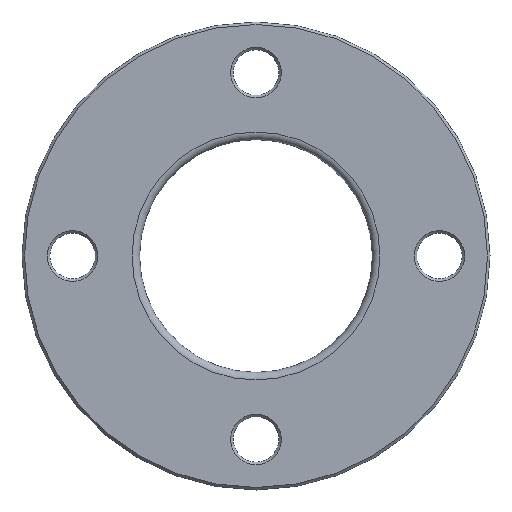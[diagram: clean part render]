
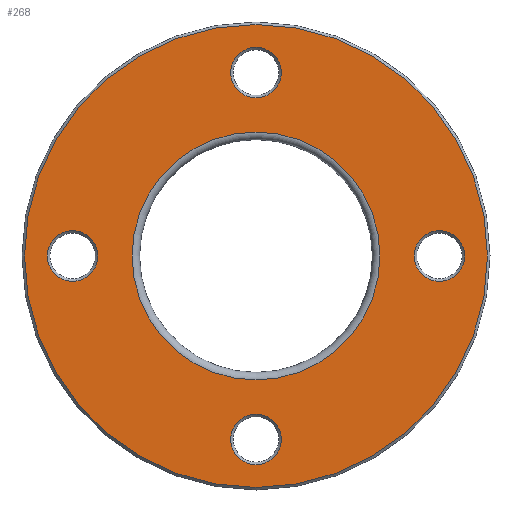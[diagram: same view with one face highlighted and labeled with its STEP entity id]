
A CAD part, front view. The second image highlights one B-rep face of the part: STEP entity #268.
In plain terms, the highlighted planar face has unit normal (0, -1, 0).
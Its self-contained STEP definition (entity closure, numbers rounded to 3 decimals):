
#23=PLANE('',#320);
#62=ORIENTED_EDGE('',*,*,#101,.T.);
#63=ORIENTED_EDGE('',*,*,#102,.T.);
#64=ORIENTED_EDGE('',*,*,#84,.T.);
#65=ORIENTED_EDGE('',*,*,#88,.T.);
#66=ORIENTED_EDGE('',*,*,#92,.T.);
#67=ORIENTED_EDGE('',*,*,#103,.T.);
#84=EDGE_CURVE('',#108,#108,#132,.T.);
#88=EDGE_CURVE('',#112,#112,#136,.T.);
#92=EDGE_CURVE('',#116,#116,#140,.T.);
#101=EDGE_CURVE('',#125,#125,#149,.F.);
#102=EDGE_CURVE('',#126,#126,#150,.T.);
#103=EDGE_CURVE('',#127,#127,#151,.T.);
#108=VERTEX_POINT('',#431);
#112=VERTEX_POINT('',#442);
#116=VERTEX_POINT('',#453);
#125=VERTEX_POINT('',#476);
#126=VERTEX_POINT('',#478);
#127=VERTEX_POINT('',#480);
#132=CIRCLE('',#293,10.);
#136=CIRCLE('',#300,10.);
#140=CIRCLE('',#307,10.);
#149=CIRCLE('',#321,91.5);
#150=CIRCLE('',#322,49.);
#151=CIRCLE('',#323,10.);
#182=EDGE_LOOP('',(#62));
#183=EDGE_LOOP('',(#63));
#184=EDGE_LOOP('',(#64));
#185=EDGE_LOOP('',(#65));
#186=EDGE_LOOP('',(#66));
#187=EDGE_LOOP('',(#67));
#230=FACE_BOUND('',#182,.T.);
#231=FACE_BOUND('',#183,.T.);
#232=FACE_BOUND('',#184,.T.);
#233=FACE_BOUND('',#185,.T.);
#234=FACE_BOUND('',#186,.T.);
#235=FACE_BOUND('',#187,.T.);
#268=ADVANCED_FACE('',(#230,#231,#232,#233,#234,#235),#23,.F.);
#293=AXIS2_PLACEMENT_3D('',#430,#343,#344);
#300=AXIS2_PLACEMENT_3D('',#441,#357,#358);
#307=AXIS2_PLACEMENT_3D('',#452,#371,#372);
#320=AXIS2_PLACEMENT_3D('',#474,#397,#398);
#321=AXIS2_PLACEMENT_3D('',#475,#399,#400);
#322=AXIS2_PLACEMENT_3D('',#477,#401,#402);
#323=AXIS2_PLACEMENT_3D('',#479,#403,#404);
#343=DIRECTION('',(0.,1.,0.));
#344=DIRECTION('',(0.,0.,1.));
#357=DIRECTION('',(0.,1.,0.));
#358=DIRECTION('',(-1.,0.,0.));
#371=DIRECTION('',(0.,1.,0.));
#372=DIRECTION('',(0.,0.,-1.));
#397=DIRECTION('',(0.,1.,0.));
#398=DIRECTION('',(0.,0.,1.));
#399=DIRECTION('',(0.,1.,0.));
#400=DIRECTION('',(0.,0.,1.));
#401=DIRECTION('',(0.,1.,0.));
#402=DIRECTION('',(0.,0.,1.));
#403=DIRECTION('',(0.,1.,0.));
#404=DIRECTION('',(1.,0.,0.));
#430=CARTESIAN_POINT('',(-72.5,0.,0.));
#431=CARTESIAN_POINT('',(-72.5,0.,10.));
#441=CARTESIAN_POINT('',(0.,0.,-72.5));
#442=CARTESIAN_POINT('',(-10.,0.,-72.5));
#452=CARTESIAN_POINT('',(72.5,0.,0.));
#453=CARTESIAN_POINT('',(72.5,0.,-10.));
#474=CARTESIAN_POINT('',(0.,0.,0.));
#475=CARTESIAN_POINT('',(0.,0.,0.));
#476=CARTESIAN_POINT('',(0.,0.,91.5));
#477=CARTESIAN_POINT('',(0.,0.,0.));
#478=CARTESIAN_POINT('',(0.,0.,49.));
#479=CARTESIAN_POINT('',(0.,0.,72.5));
#480=CARTESIAN_POINT('',(10.,0.,72.5));
